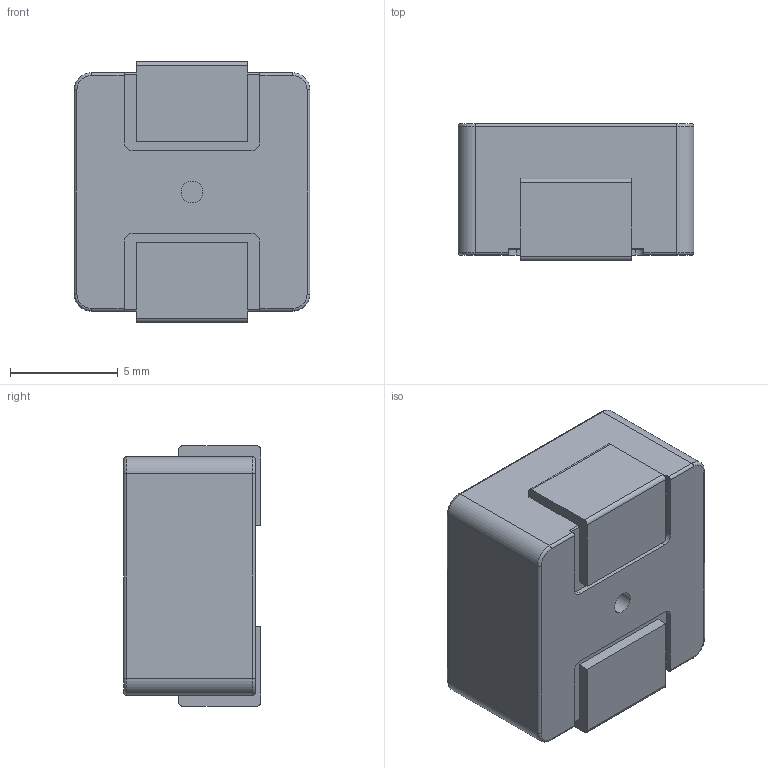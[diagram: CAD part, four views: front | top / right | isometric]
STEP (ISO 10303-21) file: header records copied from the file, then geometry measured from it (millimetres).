
FILE_DESCRIPTION (( 'STEP AP214' ), '1' );
FILE_NAME ('P700L Figure 2 Assembly.STEP', '2024-06-05T16:04:41', ( '' ), ( '' ), 'SwSTEP 2.0', 'SolidWorks 2019', '' );
FILE_SCHEMA (( 'AUTOMOTIVE_DESIGN' ));
Length unit declared in the file: inch
Products named in the file (10): P700L Figure 2 50VDC Text; P700L Figure 2 20.0 A Text; P700L Figure 2 Terminal; P700L Figure 2 C-4607 Text; P700L Figure 2 Body; P700L Figure 2 Assembly; P700L Figure 2 Glass; P700L Figure 2 P700L Text; P700L Figure 2 Element; P700L Figure 2 Solder
Assembly tree (11 placements, depth 2):
  P700L Figure 2 Assembly
    P700L Figure 2 Body
    P700L Figure 2 Terminal  x2
    P700L Figure 2 Element
    P700L Figure 2 Glass
    P700L Figure 2 Solder  x2
    P700L Figure 2 P700L Text
    P700L Figure 2 50VDC Text
    P700L Figure 2 20.0 A Text
    P700L Figure 2 C-4607 Text
Bounding box: 10.92 x 6.38 x 12.06 mm (x, y, z)
Volume: 756.1 mm3; surface area: 1055.1 mm2
Topology: 28 solids, 28 shells, 429 faces, 1093 edges, 722 vertices
Faces by surface type: plane 215, bspline 163, cylinder 43, torus 8
Full cylindrical faces by diameter (mm): 1.016 x1
Entity records: 19288 total; most frequent: CARTESIAN_POINT 9598, ORIENTED_EDGE 2094, DIRECTION 1327, EDGE_CURVE 1047, VERTEX_POINT 692, LINE 637, VECTOR 637, EDGE_LOOP 437
